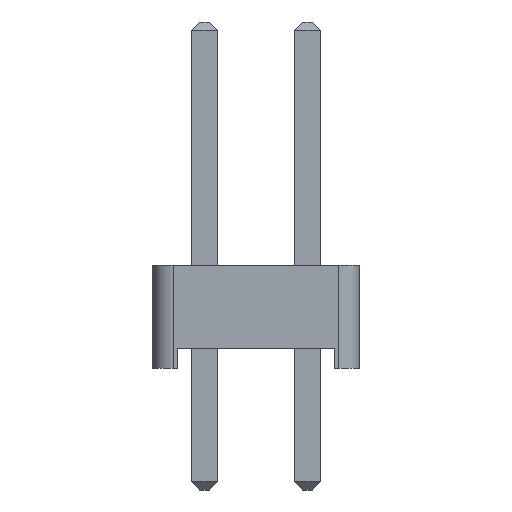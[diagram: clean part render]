
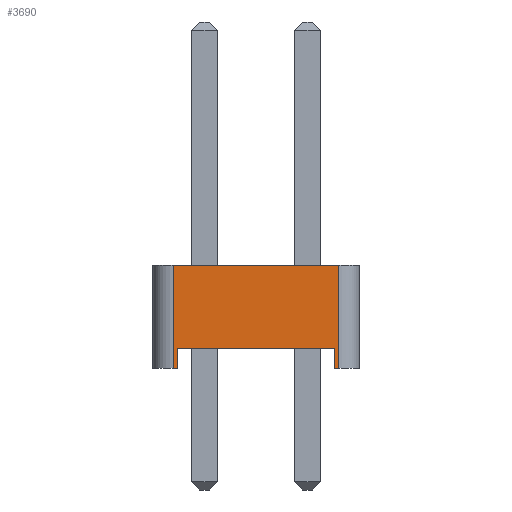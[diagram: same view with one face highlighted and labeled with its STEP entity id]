
A CAD part, left-side view. The second image highlights one B-rep face of the part: STEP entity #3690.
In plain terms, the highlighted planar face has unit normal (-1, 0, 0).
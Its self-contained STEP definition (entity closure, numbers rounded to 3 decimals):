
#3430 = VERTEX_POINT('',#3431);
#3431 = CARTESIAN_POINT('',(-1.27,2.04,0.));
#3439 = PLANE('',#3440);
#3440 = AXIS2_PLACEMENT_3D('',#3441,#3442,#3443);
#3441 = CARTESIAN_POINT('',(0.,0.,0.));
#3442 = DIRECTION('',(-0.,-0.,-1.));
#3443 = DIRECTION('',(-1.,0.,0.));
#3455 = CYLINDRICAL_SURFACE('',#3456,0.5);
#3456 = AXIS2_PLACEMENT_3D('',#3457,#3458,#3459);
#3457 = CARTESIAN_POINT('',(-0.77,2.04,0.));
#3458 = DIRECTION('',(0.,0.,1.));
#3459 = DIRECTION('',(0.,1.,0.));
#3557 = VERTEX_POINT('',#3558);
#3558 = CARTESIAN_POINT('',(-1.27,1.94,0.));
#3572 = PLANE('',#3573);
#3573 = AXIS2_PLACEMENT_3D('',#3574,#3575,#3576);
#3574 = CARTESIAN_POINT('',(1.27,1.94,0.));
#3575 = DIRECTION('',(0.,-1.,0.));
#3576 = DIRECTION('',(-1.,0.,0.));
#3584 = EDGE_CURVE('',#3557,#3430,#3585,.T.);
#3585 = SURFACE_CURVE('',#3586,(#3590,#3597),.PCURVE_S1.);
#3586 = LINE('',#3587,#3588);
#3587 = CARTESIAN_POINT('',(-1.27,-2.54,0.));
#3588 = VECTOR('',#3589,1.);
#3589 = DIRECTION('',(0.,1.,0.));
#3590 = PCURVE('',#3439,#3591);
#3591 = DEFINITIONAL_REPRESENTATION('',(#3592),#3596);
#3592 = LINE('',#3593,#3594);
#3593 = CARTESIAN_POINT('',(1.27,-2.54));
#3594 = VECTOR('',#3595,1.);
#3595 = DIRECTION('',(0.,1.));
#3596 = ( GEOMETRIC_REPRESENTATION_CONTEXT(2) 
PARAMETRIC_REPRESENTATION_CONTEXT() REPRESENTATION_CONTEXT('2D SPACE',''
  ) );
#3597 = PCURVE('',#3598,#3603);
#3598 = PLANE('',#3599);
#3599 = AXIS2_PLACEMENT_3D('',#3600,#3601,#3602);
#3600 = CARTESIAN_POINT('',(-1.27,-2.54,0.));
#3601 = DIRECTION('',(-1.,0.,0.));
#3602 = DIRECTION('',(0.,1.,0.));
#3603 = DEFINITIONAL_REPRESENTATION('',(#3604),#3608);
#3604 = LINE('',#3605,#3606);
#3605 = CARTESIAN_POINT('',(0.,0.));
#3606 = VECTOR('',#3607,1.);
#3607 = DIRECTION('',(1.,0.));
#3608 = ( GEOMETRIC_REPRESENTATION_CONTEXT(2) 
PARAMETRIC_REPRESENTATION_CONTEXT() REPRESENTATION_CONTEXT('2D SPACE',''
  ) );
#3614 = EDGE_CURVE('',#3430,#3615,#3617,.T.);
#3615 = VERTEX_POINT('',#3616);
#3616 = CARTESIAN_POINT('',(-1.27,2.04,2.54));
#3617 = SURFACE_CURVE('',#3618,(#3622,#3629),.PCURVE_S1.);
#3618 = LINE('',#3619,#3620);
#3619 = CARTESIAN_POINT('',(-1.27,2.04,0.));
#3620 = VECTOR('',#3621,1.);
#3621 = DIRECTION('',(0.,0.,1.));
#3622 = PCURVE('',#3455,#3623);
#3623 = DEFINITIONAL_REPRESENTATION('',(#3624),#3628);
#3624 = LINE('',#3625,#3626);
#3625 = CARTESIAN_POINT('',(1.571,0.));
#3626 = VECTOR('',#3627,1.);
#3627 = DIRECTION('',(0.,1.));
#3628 = ( GEOMETRIC_REPRESENTATION_CONTEXT(2) 
PARAMETRIC_REPRESENTATION_CONTEXT() REPRESENTATION_CONTEXT('2D SPACE',''
  ) );
#3629 = PCURVE('',#3598,#3630);
#3630 = DEFINITIONAL_REPRESENTATION('',(#3631),#3635);
#3631 = LINE('',#3632,#3633);
#3632 = CARTESIAN_POINT('',(4.58,0.));
#3633 = VECTOR('',#3634,1.);
#3634 = DIRECTION('',(0.,-1.));
#3635 = ( GEOMETRIC_REPRESENTATION_CONTEXT(2) 
PARAMETRIC_REPRESENTATION_CONTEXT() REPRESENTATION_CONTEXT('2D SPACE',''
  ) );
#3654 = PLANE('',#3655);
#3655 = AXIS2_PLACEMENT_3D('',#3656,#3657,#3658);
#3656 = CARTESIAN_POINT('',(0.,0.,2.54));
#3657 = DIRECTION('',(-0.,-0.,-1.));
#3658 = DIRECTION('',(-1.,0.,0.));
#3690 = ADVANCED_FACE('',(#3691),#3598,.T.);
#3691 = FACE_BOUND('',#3692,.T.);
#3692 = EDGE_LOOP('',(#3693,#3723,#3751,#3772,#3773,#3774,#3797,#3825));
#3693 = ORIENTED_EDGE('',*,*,#3694,.F.);
#3694 = EDGE_CURVE('',#3695,#3697,#3699,.T.);
#3695 = VERTEX_POINT('',#3696);
#3696 = CARTESIAN_POINT('',(-1.27,-2.04,0.));
#3697 = VERTEX_POINT('',#3698);
#3698 = CARTESIAN_POINT('',(-1.27,-1.94,0.));
#3699 = SURFACE_CURVE('',#3700,(#3704,#3711),.PCURVE_S1.);
#3700 = LINE('',#3701,#3702);
#3701 = CARTESIAN_POINT('',(-1.27,-2.54,0.));
#3702 = VECTOR('',#3703,1.);
#3703 = DIRECTION('',(0.,1.,0.));
#3704 = PCURVE('',#3598,#3705);
#3705 = DEFINITIONAL_REPRESENTATION('',(#3706),#3710);
#3706 = LINE('',#3707,#3708);
#3707 = CARTESIAN_POINT('',(0.,0.));
#3708 = VECTOR('',#3709,1.);
#3709 = DIRECTION('',(1.,0.));
#3710 = ( GEOMETRIC_REPRESENTATION_CONTEXT(2) 
PARAMETRIC_REPRESENTATION_CONTEXT() REPRESENTATION_CONTEXT('2D SPACE',''
  ) );
#3711 = PCURVE('',#3712,#3717);
#3712 = PLANE('',#3713);
#3713 = AXIS2_PLACEMENT_3D('',#3714,#3715,#3716);
#3714 = CARTESIAN_POINT('',(0.,0.,0.));
#3715 = DIRECTION('',(-0.,-0.,-1.));
#3716 = DIRECTION('',(-1.,0.,0.));
#3717 = DEFINITIONAL_REPRESENTATION('',(#3718),#3722);
#3718 = LINE('',#3719,#3720);
#3719 = CARTESIAN_POINT('',(1.27,-2.54));
#3720 = VECTOR('',#3721,1.);
#3721 = DIRECTION('',(0.,1.));
#3722 = ( GEOMETRIC_REPRESENTATION_CONTEXT(2) 
PARAMETRIC_REPRESENTATION_CONTEXT() REPRESENTATION_CONTEXT('2D SPACE',''
  ) );
#3723 = ORIENTED_EDGE('',*,*,#3724,.T.);
#3724 = EDGE_CURVE('',#3695,#3725,#3727,.T.);
#3725 = VERTEX_POINT('',#3726);
#3726 = CARTESIAN_POINT('',(-1.27,-2.04,2.54));
#3727 = SURFACE_CURVE('',#3728,(#3732,#3739),.PCURVE_S1.);
#3728 = LINE('',#3729,#3730);
#3729 = CARTESIAN_POINT('',(-1.27,-2.04,0.));
#3730 = VECTOR('',#3731,1.);
#3731 = DIRECTION('',(0.,0.,1.));
#3732 = PCURVE('',#3598,#3733);
#3733 = DEFINITIONAL_REPRESENTATION('',(#3734),#3738);
#3734 = LINE('',#3735,#3736);
#3735 = CARTESIAN_POINT('',(0.5,0.));
#3736 = VECTOR('',#3737,1.);
#3737 = DIRECTION('',(0.,-1.));
#3738 = ( GEOMETRIC_REPRESENTATION_CONTEXT(2) 
PARAMETRIC_REPRESENTATION_CONTEXT() REPRESENTATION_CONTEXT('2D SPACE',''
  ) );
#3739 = PCURVE('',#3740,#3745);
#3740 = CYLINDRICAL_SURFACE('',#3741,0.5);
#3741 = AXIS2_PLACEMENT_3D('',#3742,#3743,#3744);
#3742 = CARTESIAN_POINT('',(-0.77,-2.04,0.));
#3743 = DIRECTION('',(0.,0.,1.));
#3744 = DIRECTION('',(0.,-1.,0.));
#3745 = DEFINITIONAL_REPRESENTATION('',(#3746),#3750);
#3746 = LINE('',#3747,#3748);
#3747 = CARTESIAN_POINT('',(-1.571,0.));
#3748 = VECTOR('',#3749,1.);
#3749 = DIRECTION('',(-0.,1.));
#3750 = ( GEOMETRIC_REPRESENTATION_CONTEXT(2) 
PARAMETRIC_REPRESENTATION_CONTEXT() REPRESENTATION_CONTEXT('2D SPACE',''
  ) );
#3751 = ORIENTED_EDGE('',*,*,#3752,.T.);
#3752 = EDGE_CURVE('',#3725,#3615,#3753,.T.);
#3753 = SURFACE_CURVE('',#3754,(#3758,#3765),.PCURVE_S1.);
#3754 = LINE('',#3755,#3756);
#3755 = CARTESIAN_POINT('',(-1.27,-2.54,2.54));
#3756 = VECTOR('',#3757,1.);
#3757 = DIRECTION('',(0.,1.,0.));
#3758 = PCURVE('',#3598,#3759);
#3759 = DEFINITIONAL_REPRESENTATION('',(#3760),#3764);
#3760 = LINE('',#3761,#3762);
#3761 = CARTESIAN_POINT('',(0.,-2.54));
#3762 = VECTOR('',#3763,1.);
#3763 = DIRECTION('',(1.,0.));
#3764 = ( GEOMETRIC_REPRESENTATION_CONTEXT(2) 
PARAMETRIC_REPRESENTATION_CONTEXT() REPRESENTATION_CONTEXT('2D SPACE',''
  ) );
#3765 = PCURVE('',#3654,#3766);
#3766 = DEFINITIONAL_REPRESENTATION('',(#3767),#3771);
#3767 = LINE('',#3768,#3769);
#3768 = CARTESIAN_POINT('',(1.27,-2.54));
#3769 = VECTOR('',#3770,1.);
#3770 = DIRECTION('',(0.,1.));
#3771 = ( GEOMETRIC_REPRESENTATION_CONTEXT(2) 
PARAMETRIC_REPRESENTATION_CONTEXT() REPRESENTATION_CONTEXT('2D SPACE',''
  ) );
#3772 = ORIENTED_EDGE('',*,*,#3614,.F.);
#3773 = ORIENTED_EDGE('',*,*,#3584,.F.);
#3774 = ORIENTED_EDGE('',*,*,#3775,.T.);
#3775 = EDGE_CURVE('',#3557,#3776,#3778,.T.);
#3776 = VERTEX_POINT('',#3777);
#3777 = CARTESIAN_POINT('',(-1.27,1.94,0.5));
#3778 = SURFACE_CURVE('',#3779,(#3783,#3790),.PCURVE_S1.);
#3779 = LINE('',#3780,#3781);
#3780 = CARTESIAN_POINT('',(-1.27,1.94,0.));
#3781 = VECTOR('',#3782,1.);
#3782 = DIRECTION('',(0.,0.,1.));
#3783 = PCURVE('',#3598,#3784);
#3784 = DEFINITIONAL_REPRESENTATION('',(#3785),#3789);
#3785 = LINE('',#3786,#3787);
#3786 = CARTESIAN_POINT('',(4.48,0.));
#3787 = VECTOR('',#3788,1.);
#3788 = DIRECTION('',(0.,-1.));
#3789 = ( GEOMETRIC_REPRESENTATION_CONTEXT(2) 
PARAMETRIC_REPRESENTATION_CONTEXT() REPRESENTATION_CONTEXT('2D SPACE',''
  ) );
#3790 = PCURVE('',#3572,#3791);
#3791 = DEFINITIONAL_REPRESENTATION('',(#3792),#3796);
#3792 = LINE('',#3793,#3794);
#3793 = CARTESIAN_POINT('',(2.54,0.));
#3794 = VECTOR('',#3795,1.);
#3795 = DIRECTION('',(0.,-1.));
#3796 = ( GEOMETRIC_REPRESENTATION_CONTEXT(2) 
PARAMETRIC_REPRESENTATION_CONTEXT() REPRESENTATION_CONTEXT('2D SPACE',''
  ) );
#3797 = ORIENTED_EDGE('',*,*,#3798,.T.);
#3798 = EDGE_CURVE('',#3776,#3799,#3801,.T.);
#3799 = VERTEX_POINT('',#3800);
#3800 = CARTESIAN_POINT('',(-1.27,-1.94,0.5));
#3801 = SURFACE_CURVE('',#3802,(#3806,#3813),.PCURVE_S1.);
#3802 = LINE('',#3803,#3804);
#3803 = CARTESIAN_POINT('',(-1.27,1.94,0.5));
#3804 = VECTOR('',#3805,1.);
#3805 = DIRECTION('',(0.,-1.,0.));
#3806 = PCURVE('',#3598,#3807);
#3807 = DEFINITIONAL_REPRESENTATION('',(#3808),#3812);
#3808 = LINE('',#3809,#3810);
#3809 = CARTESIAN_POINT('',(4.48,-0.5));
#3810 = VECTOR('',#3811,1.);
#3811 = DIRECTION('',(-1.,0.));
#3812 = ( GEOMETRIC_REPRESENTATION_CONTEXT(2) 
PARAMETRIC_REPRESENTATION_CONTEXT() REPRESENTATION_CONTEXT('2D SPACE',''
  ) );
#3813 = PCURVE('',#3814,#3819);
#3814 = PLANE('',#3815);
#3815 = AXIS2_PLACEMENT_3D('',#3816,#3817,#3818);
#3816 = CARTESIAN_POINT('',(0.,0.,0.5));
#3817 = DIRECTION('',(0.,0.,1.));
#3818 = DIRECTION('',(1.,0.,0.));
#3819 = DEFINITIONAL_REPRESENTATION('',(#3820),#3824);
#3820 = LINE('',#3821,#3822);
#3821 = CARTESIAN_POINT('',(-1.27,1.94));
#3822 = VECTOR('',#3823,1.);
#3823 = DIRECTION('',(0.,-1.));
#3824 = ( GEOMETRIC_REPRESENTATION_CONTEXT(2) 
PARAMETRIC_REPRESENTATION_CONTEXT() REPRESENTATION_CONTEXT('2D SPACE',''
  ) );
#3825 = ORIENTED_EDGE('',*,*,#3826,.F.);
#3826 = EDGE_CURVE('',#3697,#3799,#3827,.T.);
#3827 = SURFACE_CURVE('',#3828,(#3832,#3839),.PCURVE_S1.);
#3828 = LINE('',#3829,#3830);
#3829 = CARTESIAN_POINT('',(-1.27,-1.94,0.));
#3830 = VECTOR('',#3831,1.);
#3831 = DIRECTION('',(0.,0.,1.));
#3832 = PCURVE('',#3598,#3833);
#3833 = DEFINITIONAL_REPRESENTATION('',(#3834),#3838);
#3834 = LINE('',#3835,#3836);
#3835 = CARTESIAN_POINT('',(0.6,0.));
#3836 = VECTOR('',#3837,1.);
#3837 = DIRECTION('',(0.,-1.));
#3838 = ( GEOMETRIC_REPRESENTATION_CONTEXT(2) 
PARAMETRIC_REPRESENTATION_CONTEXT() REPRESENTATION_CONTEXT('2D SPACE',''
  ) );
#3839 = PCURVE('',#3840,#3845);
#3840 = PLANE('',#3841);
#3841 = AXIS2_PLACEMENT_3D('',#3842,#3843,#3844);
#3842 = CARTESIAN_POINT('',(-1.27,-1.94,0.));
#3843 = DIRECTION('',(0.,1.,0.));
#3844 = DIRECTION('',(1.,0.,0.));
#3845 = DEFINITIONAL_REPRESENTATION('',(#3846),#3850);
#3846 = LINE('',#3847,#3848);
#3847 = CARTESIAN_POINT('',(0.,0.));
#3848 = VECTOR('',#3849,1.);
#3849 = DIRECTION('',(0.,-1.));
#3850 = ( GEOMETRIC_REPRESENTATION_CONTEXT(2) 
PARAMETRIC_REPRESENTATION_CONTEXT() REPRESENTATION_CONTEXT('2D SPACE',''
  ) );
